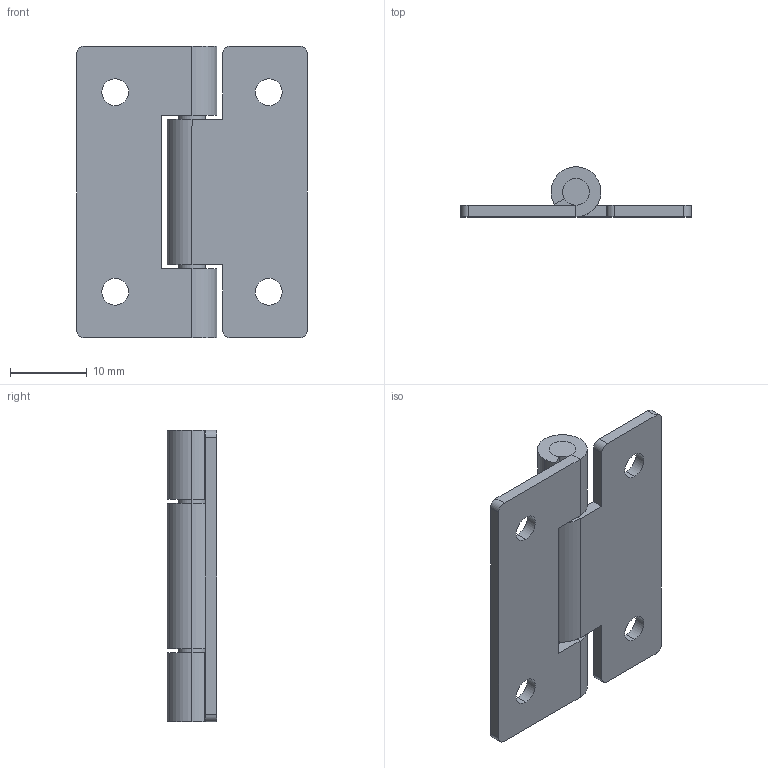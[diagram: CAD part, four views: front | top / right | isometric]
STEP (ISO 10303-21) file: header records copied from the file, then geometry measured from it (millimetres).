
FILE_DESCRIPTION (( 'STEP AP214' ), '1' );
FILE_NAME ('SK2-0510-3.STEP', '2020-03-26T02:43:53', ( 'admin' ), ( 'Microsoft' ), 'SwSTEP 2.0', 'SolidWorks 2018', '' );
FILE_SCHEMA (( 'AUTOMOTIVE_DESIGN' ));
Length unit declared in the file: millimetre
Products named in the file (4): SK2-0510-3; 2-0510-3-F3; 2-0510-3-F2; 2-0510-3-F1
Assembly tree (3 placements, depth 2):
  SK2-0510-3
    2-0510-3-F1
    2-0510-3-F2
    2-0510-3-F3
Bounding box: 30 x 6.5 x 38 mm (x, y, z)
Volume: 2509.7 mm3; surface area: 3806 mm2
Topology: 3 solids, 3 shells, 62 faces, 156 edges, 100 vertices
Faces by surface type: cylinder 34, plane 28
Entity records: 2042 total; most frequent: DIRECTION 360, CARTESIAN_POINT 324, ORIENTED_EDGE 312, EDGE_CURVE 156, AXIS2_PLACEMENT_3D 136, VERTEX_POINT 100, LINE 88, VECTOR 88
